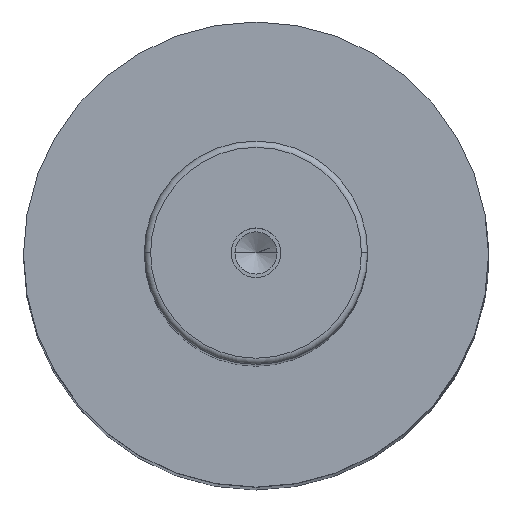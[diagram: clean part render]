
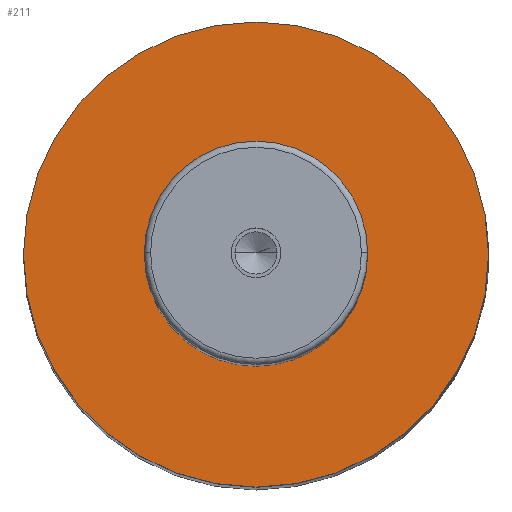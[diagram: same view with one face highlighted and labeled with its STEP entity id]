
A CAD part, top view. The second image highlights one B-rep face of the part: STEP entity #211.
In plain terms, the highlighted planar face has unit normal (0, 0, 1).
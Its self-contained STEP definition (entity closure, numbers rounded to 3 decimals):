
#109=PLANE('',#1266);
#138=FACE_BOUND('',#359,.T.);
#139=FACE_BOUND('',#360,.T.);
#211=ADVANCED_FACE('',(#138,#139),#109,.T.);
#359=EDGE_LOOP('',(#571,#572));
#360=EDGE_LOOP('',(#573,#574));
#451=CIRCLE('',#1260,18.);
#452=CIRCLE('',#1262,18.);
#453=CIRCLE('',#1264,37.5);
#454=CIRCLE('',#1265,37.5);
#571=ORIENTED_EDGE('',*,*,#970,.F.);
#572=ORIENTED_EDGE('',*,*,#971,.F.);
#573=ORIENTED_EDGE('',*,*,#969,.T.);
#574=ORIENTED_EDGE('',*,*,#967,.T.);
#856=VERTEX_POINT('',#1837);
#857=VERTEX_POINT('',#1839);
#858=VERTEX_POINT('',#1845);
#859=VERTEX_POINT('',#1846);
#967=EDGE_CURVE('',#857,#856,#451,.T.);
#969=EDGE_CURVE('',#856,#857,#452,.T.);
#970=EDGE_CURVE('',#858,#859,#453,.T.);
#971=EDGE_CURVE('',#859,#858,#454,.T.);
#1260=AXIS2_PLACEMENT_3D('',#1838,#1456,#1457);
#1262=AXIS2_PLACEMENT_3D('',#1842,#1461,#1462);
#1264=AXIS2_PLACEMENT_3D('',#1844,#1465,#1466);
#1265=AXIS2_PLACEMENT_3D('',#1847,#1467,#1468);
#1266=AXIS2_PLACEMENT_3D('',#1848,#1469,#1470);
#1456=DIRECTION('',(0.,0.,-1.));
#1457=DIRECTION('',(0.,1.,0.));
#1461=DIRECTION('',(0.,0.,-1.));
#1462=DIRECTION('',(0.,-1.,0.));
#1465=DIRECTION('',(0.,0.,-1.));
#1466=DIRECTION('',(0.,1.,0.));
#1467=DIRECTION('',(0.,0.,-1.));
#1468=DIRECTION('',(0.,-1.,0.));
#1469=DIRECTION('',(0.,0.,1.));
#1470=DIRECTION('',(0.,-1.,0.));
#1837=CARTESIAN_POINT('',(-18.,0.,267.));
#1838=CARTESIAN_POINT('',(0.,0.,267.));
#1839=CARTESIAN_POINT('',(18.,0.,267.));
#1842=CARTESIAN_POINT('',(0.,0.,267.));
#1844=CARTESIAN_POINT('',(0.,0.,267.));
#1845=CARTESIAN_POINT('',(37.5,0.,267.));
#1846=CARTESIAN_POINT('',(-37.5,0.,267.));
#1847=CARTESIAN_POINT('',(0.,0.,267.));
#1848=CARTESIAN_POINT('',(0.,0.,267.));
